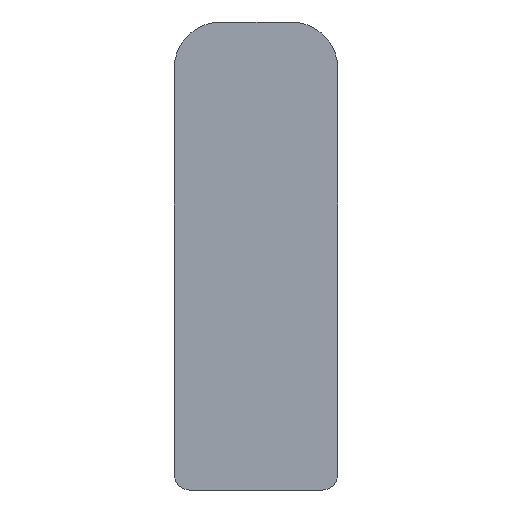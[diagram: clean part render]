
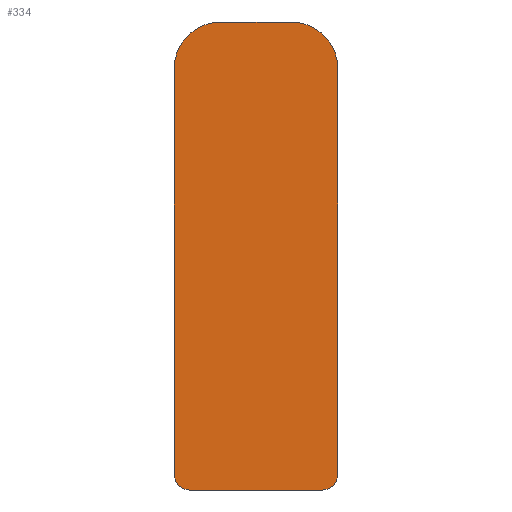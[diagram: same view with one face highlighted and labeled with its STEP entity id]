
A CAD part, left-side view. The second image highlights one B-rep face of the part: STEP entity #334.
In plain terms, the highlighted planar face has unit normal (-1, 0, 0).
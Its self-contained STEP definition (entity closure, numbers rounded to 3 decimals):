
#4 = VECTOR ( 'NONE', #300, 1000. ) ;
#11 = CIRCLE ( 'NONE', #141, 3. ) ;
#23 = FACE_OUTER_BOUND ( 'NONE', #155, .T. ) ;
#28 = LINE ( 'NONE', #301, #4 ) ;
#39 = VECTOR ( 'NONE', #274, 1000. ) ;
#41 = LINE ( 'NONE', #276, #39 ) ;
#45 = CIRCLE ( 'NONE', #139, 3. ) ;
#57 = VECTOR ( 'NONE', #317, 1000. ) ;
#60 = LINE ( 'NONE', #318, #57 ) ;
#61 = CIRCLE ( 'NONE', #142, 1. ) ;
#76 = VECTOR ( 'NONE', #209, 1000. ) ;
#77 = LINE ( 'NONE', #210, #76 ) ;
#81 = ORIENTED_EDGE ( 'NONE', *, *, #168, .T. ) ;
#84 = ORIENTED_EDGE ( 'NONE', *, *, #171, .T. ) ;
#85 = ORIENTED_EDGE ( 'NONE', *, *, #174, .T. ) ;
#86 = ORIENTED_EDGE ( 'NONE', *, *, #146, .T. ) ;
#87 = ORIENTED_EDGE ( 'NONE', *, *, #167, .T. ) ;
#90 = CIRCLE ( 'NONE', #144, 1. ) ;
#105 = ORIENTED_EDGE ( 'NONE', *, *, #149, .T. ) ;
#113 = ORIENTED_EDGE ( 'NONE', *, *, #159, .T. ) ;
#114 = ORIENTED_EDGE ( 'NONE', *, *, #161, .T. ) ;
#134 = AXIS2_PLACEMENT_3D ( 'NONE', #239, #238, #236 ) ;
#139 = AXIS2_PLACEMENT_3D ( 'NONE', #286, #285, #284 ) ;
#141 = AXIS2_PLACEMENT_3D ( 'NONE', #298, #297, #295 ) ;
#142 = AXIS2_PLACEMENT_3D ( 'NONE', #326, #325, #323 ) ;
#144 = AXIS2_PLACEMENT_3D ( 'NONE', #243, #242, #237 ) ;
#146 = EDGE_CURVE ( 'NONE', #329, #296, #90, .T. ) ;
#149 = EDGE_CURVE ( 'NONE', #296, #324, #77, .T. ) ;
#155 = EDGE_LOOP ( 'NONE', ( #81, #87, #84, #85, #86, #105, #113, #114 ) ) ;
#159 = EDGE_CURVE ( 'NONE', #324, #277, #61, .T. ) ;
#161 = EDGE_CURVE ( 'NONE', #277, #292, #60, .T. ) ;
#167 = EDGE_CURVE ( 'NONE', #278, #306, #28, .T. ) ;
#168 = EDGE_CURVE ( 'NONE', #292, #278, #11, .T. ) ;
#171 = EDGE_CURVE ( 'NONE', #306, #303, #45, .T. ) ;
#174 = EDGE_CURVE ( 'NONE', #303, #329, #41, .T. ) ;
#209 = DIRECTION ( 'NONE',  ( 0., -1., 0. ) ) ;
#210 = CARTESIAN_POINT ( 'NONE',  ( -506.25, -4.25, 0. ) ) ;
#236 = DIRECTION ( 'NONE',  ( 0., 0., 1. ) ) ;
#237 = DIRECTION ( 'NONE',  ( 0., 0., -1. ) ) ;
#238 = DIRECTION ( 'NONE',  ( -1., 0., 0. ) ) ;
#239 = CARTESIAN_POINT ( 'NONE',  ( -506.25, -2.25, 27. ) ) ;
#240 = PLANE ( 'NONE',  #134 ) ;
#242 = DIRECTION ( 'NONE',  ( -1., 0., 0. ) ) ;
#243 = CARTESIAN_POINT ( 'NONE',  ( -506.25, 4.25, 1. ) ) ;
#246 = CARTESIAN_POINT ( 'NONE',  ( -506.25, 5.25, 1. ) ) ;
#247 = CARTESIAN_POINT ( 'NONE',  ( -506.25, -4.25, 0. ) ) ;
#251 = CARTESIAN_POINT ( 'NONE',  ( -506.25, 2.25, 30. ) ) ;
#252 = CARTESIAN_POINT ( 'NONE',  ( -506.25, 5.25, 27. ) ) ;
#254 = CARTESIAN_POINT ( 'NONE',  ( -506.25, 4.25, 0. ) ) ;
#255 = CARTESIAN_POINT ( 'NONE',  ( -506.25, -5.25, 27. ) ) ;
#259 = CARTESIAN_POINT ( 'NONE',  ( -506.25, -2.25, 30. ) ) ;
#260 = CARTESIAN_POINT ( 'NONE',  ( -506.25, -5.25, 1. ) ) ;
#274 = DIRECTION ( 'NONE',  ( 0., 0., -1. ) ) ;
#276 = CARTESIAN_POINT ( 'NONE',  ( -506.25, 5.25, 1. ) ) ;
#277 = VERTEX_POINT ( 'NONE', #260 ) ;
#278 = VERTEX_POINT ( 'NONE', #259 ) ;
#284 = DIRECTION ( 'NONE',  ( 0., 0., -1. ) ) ;
#285 = DIRECTION ( 'NONE',  ( -1., 0., 0. ) ) ;
#286 = CARTESIAN_POINT ( 'NONE',  ( -506.25, 2.25, 27. ) ) ;
#292 = VERTEX_POINT ( 'NONE', #255 ) ;
#295 = DIRECTION ( 'NONE',  ( 0., 0., 1. ) ) ;
#296 = VERTEX_POINT ( 'NONE', #254 ) ;
#297 = DIRECTION ( 'NONE',  ( -1., 0., 0. ) ) ;
#298 = CARTESIAN_POINT ( 'NONE',  ( -506.25, -2.25, 27. ) ) ;
#300 = DIRECTION ( 'NONE',  ( 0., 1., 0. ) ) ;
#301 = CARTESIAN_POINT ( 'NONE',  ( -506.25, -2.25, 30. ) ) ;
#303 = VERTEX_POINT ( 'NONE', #252 ) ;
#306 = VERTEX_POINT ( 'NONE', #251 ) ;
#317 = DIRECTION ( 'NONE',  ( 0., 0., 1. ) ) ;
#318 = CARTESIAN_POINT ( 'NONE',  ( -506.25, -5.25, 1. ) ) ;
#323 = DIRECTION ( 'NONE',  ( 0., 0., -1. ) ) ;
#324 = VERTEX_POINT ( 'NONE', #247 ) ;
#325 = DIRECTION ( 'NONE',  ( -1., 0., 0. ) ) ;
#326 = CARTESIAN_POINT ( 'NONE',  ( -506.25, -4.25, 1. ) ) ;
#329 = VERTEX_POINT ( 'NONE', #246 ) ;
#334 = ADVANCED_FACE ( 'NONE', ( #23 ), #240, .T. ) ;
